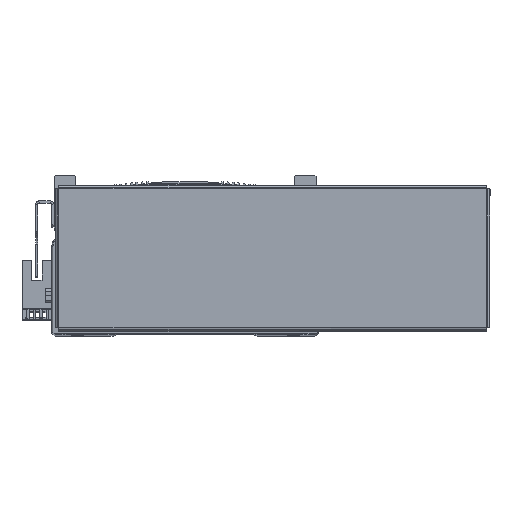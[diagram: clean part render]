
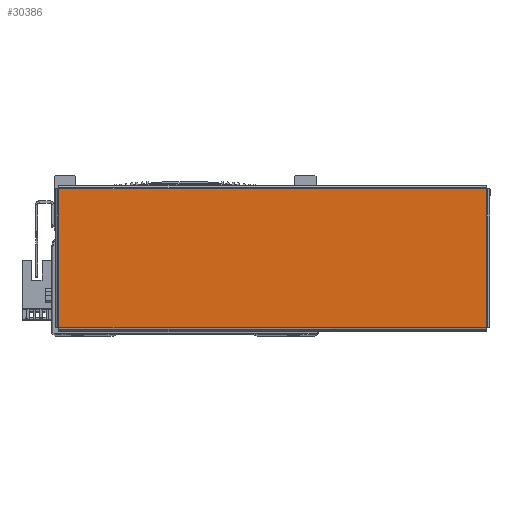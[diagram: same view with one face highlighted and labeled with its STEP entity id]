
A CAD part, top view. The second image highlights one B-rep face of the part: STEP entity #30386.
In plain terms, the highlighted planar face has unit normal (0, 0, 1) as drawn and (0, 0, -1) by its records, which use the part's own axes.
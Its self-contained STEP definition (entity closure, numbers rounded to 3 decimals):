
#281 = AXIS2_PLACEMENT_3D ( 'NONE', #8526, #8527, #8502 ) ;
#3217 = FACE_OUTER_BOUND ( 'NONE', #43056, .T. ) ;
#8502 = DIRECTION ( 'NONE',  ( 1., 0., 0. ) ) ;
#8526 = CARTESIAN_POINT ( 'NONE',  ( 0., 0., -1. ) ) ;
#8527 = DIRECTION ( 'NONE',  ( 0., 0., 1. ) ) ;
#8539 = PLANE ( 'NONE',  #281 ) ;
#16942 = VERTEX_POINT ( 'NONE', #46426 ) ;
#17054 = VERTEX_POINT ( 'NONE', #46414 ) ;
#17262 = VERTEX_POINT ( 'NONE', #46568 ) ;
#21827 = EDGE_CURVE ( 'NONE', #17054, #17262, #53847, .T. ) ;
#21871 = EDGE_CURVE ( 'NONE', #43838, #16942, #53985, .T. ) ;
#21881 = EDGE_CURVE ( 'NONE', #16942, #17054, #53953, .T. ) ;
#21899 = EDGE_CURVE ( 'NONE', #17262, #43838, #53995, .T. ) ;
#30386 = ADVANCED_FACE ( 'NONE', ( #3217 ), #8539, .F. ) ;
#43056 = EDGE_LOOP ( 'NONE', ( #51416, #51377, #51402, #51432 ) ) ;
#43838 = VERTEX_POINT ( 'NONE', #61593 ) ;
#46414 = CARTESIAN_POINT ( 'NONE',  ( -97.863, -31.763, -1. ) ) ;
#46426 = CARTESIAN_POINT ( 'NONE',  ( 97.863, -31.763, -1. ) ) ;
#46568 = CARTESIAN_POINT ( 'NONE',  ( -97.863, 31.763, -1. ) ) ;
#51377 = ORIENTED_EDGE ( 'NONE', *, *, #21881, .T. ) ;
#51402 = ORIENTED_EDGE ( 'NONE', *, *, #21827, .T. ) ;
#51416 = ORIENTED_EDGE ( 'NONE', *, *, #21871, .T. ) ;
#51432 = ORIENTED_EDGE ( 'NONE', *, *, #21899, .T. ) ;
#53847 = LINE ( 'NONE', #55041, #53870 ) ;
#53870 = VECTOR ( 'NONE', #55007, 1000. ) ;
#53938 = VECTOR ( 'NONE', #55146, 1000. ) ;
#53953 = LINE ( 'NONE', #55158, #53938 ) ;
#53981 = VECTOR ( 'NONE', #55138, 1000. ) ;
#53985 = LINE ( 'NONE', #55132, #53981 ) ;
#53988 = VECTOR ( 'NONE', #55197, 1000. ) ;
#53995 = LINE ( 'NONE', #55185, #53988 ) ;
#55007 = DIRECTION ( 'NONE',  ( 0., 1., 0. ) ) ;
#55041 = CARTESIAN_POINT ( 'NONE',  ( -97.863, -31.793, -1. ) ) ;
#55132 = CARTESIAN_POINT ( 'NONE',  ( 97.863, 31.793, -1. ) ) ;
#55138 = DIRECTION ( 'NONE',  ( 0., -1., 0. ) ) ;
#55146 = DIRECTION ( 'NONE',  ( -1., 0., 0. ) ) ;
#55158 = CARTESIAN_POINT ( 'NONE',  ( 97.893, -31.763, -1. ) ) ;
#55185 = CARTESIAN_POINT ( 'NONE',  ( -97.893, 31.763, -1. ) ) ;
#55197 = DIRECTION ( 'NONE',  ( 1., 0., 0. ) ) ;
#61593 = CARTESIAN_POINT ( 'NONE',  ( 97.863, 31.763, -1. ) ) ;
